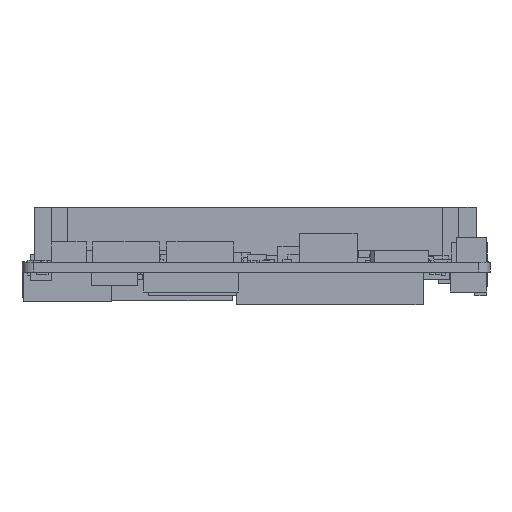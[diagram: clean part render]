
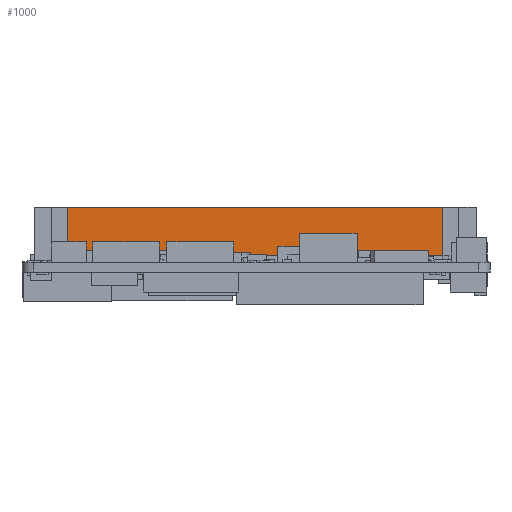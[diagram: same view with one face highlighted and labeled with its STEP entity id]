
A CAD part, front view. The second image highlights one B-rep face of the part: STEP entity #1000.
In plain terms, the highlighted planar face has unit normal (0, -1, 0) as drawn and (0, 1, 0) by its records, which use the part's own axes.
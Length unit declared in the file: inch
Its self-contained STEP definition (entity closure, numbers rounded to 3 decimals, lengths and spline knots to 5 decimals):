
#537 = CARTESIAN_POINT ( 'NONE',  ( 1.31998, 0.19592, 0.37205 ) ) ;
#1000 = ADVANCED_FACE ( 'NONE', ( #19835 ), #16144, .T. ) ;
#2881 = EDGE_CURVE ( 'NONE', #4218, #16710, #10403, .T. ) ;
#3592 = LINE ( 'NONE', #7935, #9124 ) ;
#3806 = ORIENTED_EDGE ( 'NONE', *, *, #5842, .T. ) ;
#4218 = VERTEX_POINT ( 'NONE', #4897 ) ;
#4897 = CARTESIAN_POINT ( 'NONE',  ( -1.31013, 0.19592, 0.37205 ) ) ;
#5842 = EDGE_CURVE ( 'NONE', #19088, #4218, #15633, .T. ) ;
#7078 = CARTESIAN_POINT ( 'NONE',  ( 1.31998, 0.19592, 0.37205 ) ) ;
#7372 = DIRECTION ( 'NONE',  ( -1., 0., 0. ) ) ;
#7842 = CARTESIAN_POINT ( 'NONE',  ( -1.31013, 0.19592, 0. ) ) ;
#7935 = CARTESIAN_POINT ( 'NONE',  ( 1.31998, 0.19592, 0. ) ) ;
#9124 = VECTOR ( 'NONE', #19280, 39.37008 ) ;
#9560 = AXIS2_PLACEMENT_3D ( 'NONE', #13147, #19277, #12936 ) ;
#9626 = DIRECTION ( 'NONE',  ( 0., 0., 1. ) ) ;
#9753 = CARTESIAN_POINT ( 'NONE',  ( 1.31998, 0.19592, 0. ) ) ;
#10293 = DIRECTION ( 'NONE',  ( 1., 0., 0. ) ) ;
#10403 = LINE ( 'NONE', #7078, #16755 ) ;
#12006 = ORIENTED_EDGE ( 'NONE', *, *, #2881, .T. ) ;
#12819 = ORIENTED_EDGE ( 'NONE', *, *, #15466, .T. ) ;
#12936 = DIRECTION ( 'NONE',  ( 0., 0., 1. ) ) ;
#13147 = CARTESIAN_POINT ( 'NONE',  ( 1.31998, 0.19592, 0. ) ) ;
#13150 = EDGE_CURVE ( 'NONE', #19217, #19088, #19796, .T. ) ;
#13401 = EDGE_LOOP ( 'NONE', ( #12819, #19271, #3806, #12006 ) ) ;
#14757 = CARTESIAN_POINT ( 'NONE',  ( -1.31013, 0.19592, 0. ) ) ;
#15365 = CARTESIAN_POINT ( 'NONE',  ( 0., 0.19592, 0. ) ) ;
#15466 = EDGE_CURVE ( 'NONE', #16710, #19217, #3592, .T. ) ;
#15633 = LINE ( 'NONE', #7842, #16396 ) ;
#16144 = PLANE ( 'NONE',  #9560 ) ;
#16396 = VECTOR ( 'NONE', #9626, 39.37008 ) ;
#16710 = VERTEX_POINT ( 'NONE', #537 ) ;
#16755 = VECTOR ( 'NONE', #10293, 39.37008 ) ;
#19088 = VERTEX_POINT ( 'NONE', #14757 ) ;
#19217 = VERTEX_POINT ( 'NONE', #9753 ) ;
#19271 = ORIENTED_EDGE ( 'NONE', *, *, #13150, .T. ) ;
#19277 = DIRECTION ( 'NONE',  ( 0., 1., 0. ) ) ;
#19280 = DIRECTION ( 'NONE',  ( 0., 0., -1. ) ) ;
#19796 = LINE ( 'NONE', #15365, #20287 ) ;
#19835 = FACE_OUTER_BOUND ( 'NONE', #13401, .T. ) ;
#20287 = VECTOR ( 'NONE', #7372, 39.37008 ) ;
